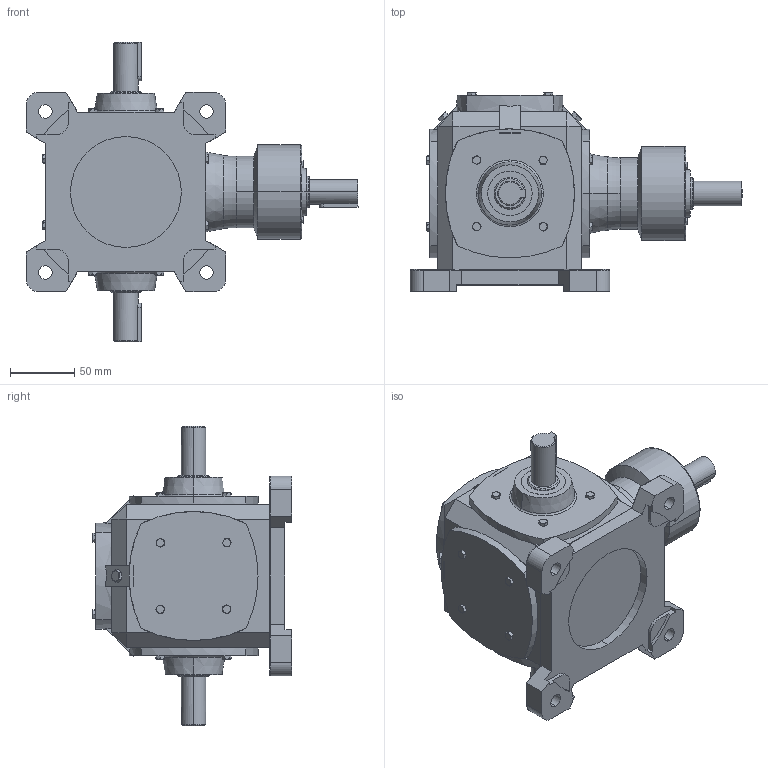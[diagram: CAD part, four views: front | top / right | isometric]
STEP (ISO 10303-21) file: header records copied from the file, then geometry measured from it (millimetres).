
FILE_DESCRIPTION (( 'STEP AP203' ), '1' );
FILE_NAME ('TC4-1-WB1-b5.step', '2018-07-13T01:59:11', ( 'IT Division' ), ( 'IT' ), 'SwSTEP 2.0', 'SolidWorks 2016', '' );
FILE_SCHEMA (( 'CONFIG_CONTROL_DESIGN' ));
Length unit declared in the file: millimetre
Products named in the file (1): TC4-1-WB1-b5
Bounding box: 257.5 x 154.43 x 232 mm (x, y, z)
Volume: 2293763 mm3; surface area: 169999.6 mm2
Topology: 2 solids, 2 shells, 628 faces, 1493 edges, 912 vertices
Faces by surface type: plane 324, cone 199, cylinder 93, torus 12
Entity records: 18881 total; most frequent: CARTESIAN_POINT 4751, ORIENTED_EDGE 2986, DIRECTION 2801, EDGE_CURVE 1493, AXIS2_PLACEMENT_3D 1028, VERTEX_POINT 912, VECTOR 745, LINE 745
